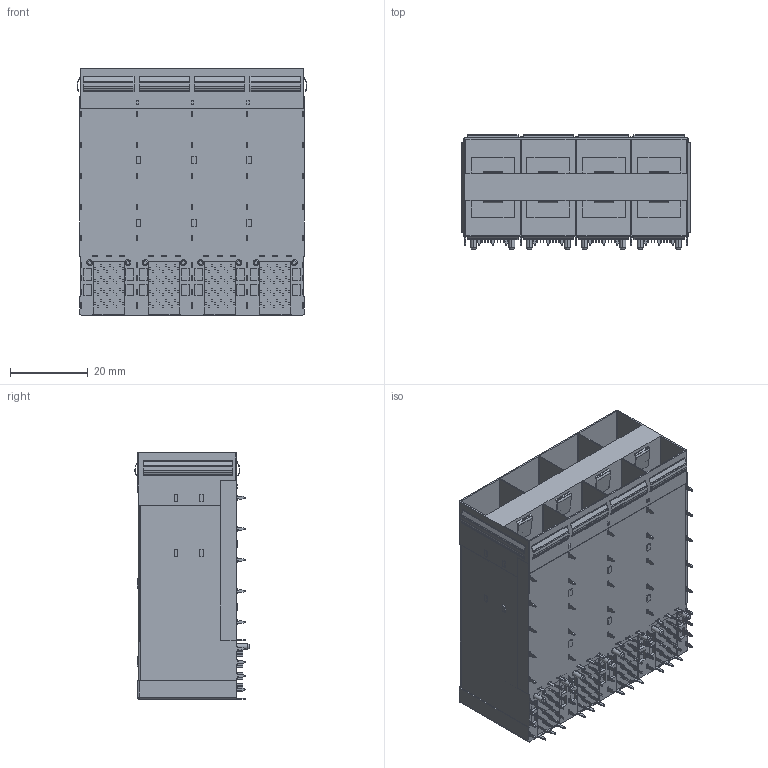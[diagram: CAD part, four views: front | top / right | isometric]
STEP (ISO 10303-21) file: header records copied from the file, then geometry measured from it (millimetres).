
FILE_DESCRIPTION (( 'STEP AP214' ), '1' );
FILE_NAME ('SFP28 2X4 ﾓﾐﾔﾂﾑﾀ ﾎﾞｵﾆ 3D.STEP', '2025-06-13T00:09:38', ( 'ﾉ｣ﾈｲｩｿﾍ' ), ( 'Www.SangSan.Cn' ), 'SwSTEP 2.0', 'SolidWorks 2018', '' );
FILE_SCHEMA (( 'AUTOMOTIVE_DESIGN' ));
Length unit declared in the file: millimetre
Products named in the file (1): SFP28 2X4 衄堎挴 拸腑  3D
Bounding box: 59.06 x 29.38 x 63.25 mm (x, y, z)
Volume: 46746.1 mm3; surface area: 34452.3 mm2
Topology: 1 solids, 1 shells, 2944 faces, 8227 edges, 5562 vertices
Faces by surface type: plane 2042, cylinder 884, cone 16, sphere 2
Entity records: 94671 total; most frequent: CARTESIAN_POINT 16732, ORIENTED_EDGE 16450, DIRECTION 15903, EDGE_CURVE 8225, VECTOR 6437, LINE 6437, VERTEX_POINT 5562, AXIS2_PLACEMENT_3D 4733
